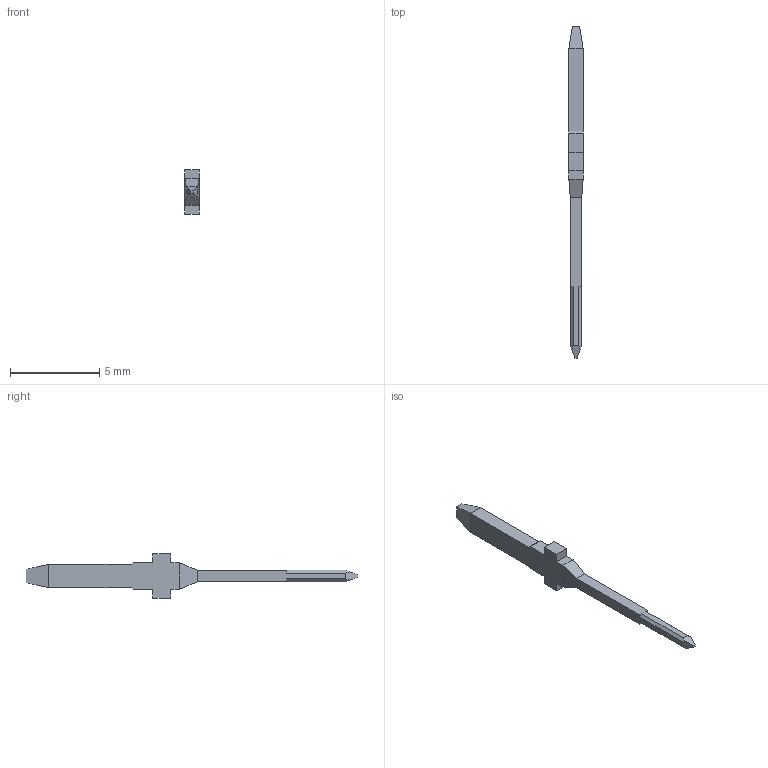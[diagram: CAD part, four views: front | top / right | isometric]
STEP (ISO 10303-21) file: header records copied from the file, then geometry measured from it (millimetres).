
FILE_DESCRIPTION((''),'2;1');
FILE_NAME('4040011202','2025-02-13T14:36:36',('jwarraich'),(''),'CREO PARAMETRIC BY PTC INC, 2022014','CREO PARAMETRIC BY PTC INC, 2022014','');
FILE_SCHEMA(('CONFIG_CONTROL_DESIGN'));
Length unit declared in the file: millimetre
Products named in the file (1): 4040011202
Bounding box: 0.8 x 18.6 x 2.5 mm (x, y, z)
Volume: 13.8 mm3; surface area: 64.8 mm2
Topology: 1 solids, 1 shells, 42 faces, 108 edges, 68 vertices
Faces by surface type: plane 42
Entity records: 1274 total; most frequent: CARTESIAN_POINT 218, ORIENTED_EDGE 216, DIRECTION 192, VECTOR 108, LINE 108, EDGE_CURVE 108, VERTEX_POINT 68, AXIS2_PLACEMENT_3D 42
